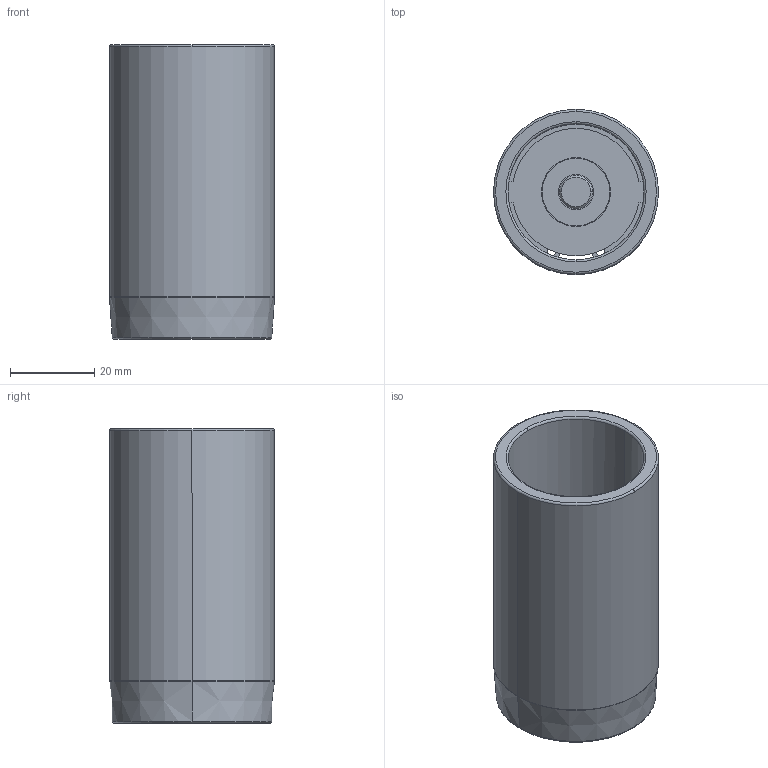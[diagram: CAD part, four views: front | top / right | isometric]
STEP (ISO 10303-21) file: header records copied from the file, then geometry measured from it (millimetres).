
FILE_DESCRIPTION((''),'2;1');
FILE_NAME('C12_032_070.stp','2009-01-28T09:48:22',(''),(''),'Mechanical Desktop 2009','Mechanical Desktop 2009',', , ');
FILE_SCHEMA(('CONFIG_CONTROL_DESIGN'));
Length unit declared in the file: millimetre
Products named in the file (2): Product; blmdl1
Assembly tree (1 placements, depth 2):
  Product
    blmdl1
Bounding box: 39.25 x 39.25 x 70 mm (x, y, z)
Volume: 30382.2 mm3; surface area: 21014.9 mm2
Topology: 5 solids, 5 shells, 79 faces, 200 edges, 134 vertices
Faces by surface type: cylinder 34, plane 29, torus 10, cone 6
Entity records: 2585 total; most frequent: DIRECTION 480, CARTESIAN_POINT 435, ORIENTED_EDGE 400, AXIS2_PLACEMENT_3D 203, EDGE_CURVE 200, VERTEX_POINT 134, CIRCLE 122, EDGE_LOOP 92
